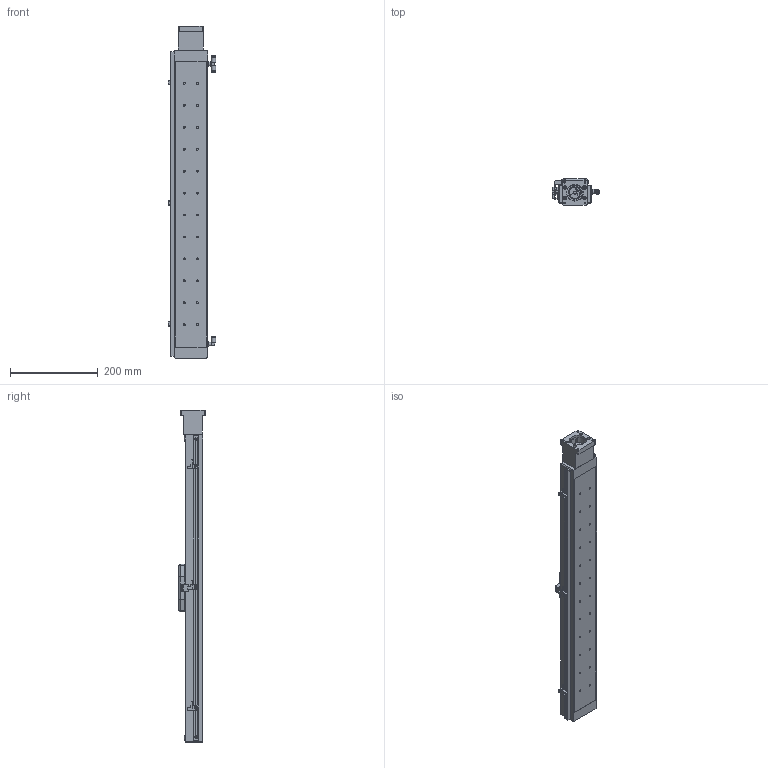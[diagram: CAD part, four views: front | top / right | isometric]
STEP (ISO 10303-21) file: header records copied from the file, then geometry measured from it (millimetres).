
FILE_DESCRIPTION((''),'2;1');
FILE_NAME('E:\catalogue and flyer\actuator catalogue 2015\dwg fr wg\UIA076CR9DC\UIA076CR9DC-stp file 05May16\UIA076CR9DC-550-R12_ _-M23-P13-C10-S.stp','2016-05-05T13:24:49',('h029'),(''),'Autodesk Inventor 11','Autodesk Inventor 11','');
FILE_SCHEMA(('AUTOMOTIVE_DESIGN { 1 0 10303 214 1 1 1 1 }'));
Length unit declared in the file: millimetre
Products named in the file (14): UIA076CR9DC-550; UIA076CR9DC-body; carriage-076CR; SOH25C; side 2; side 1; centre piece; 26-100 0071 sensor flag; GWL4-M5; GWT4-M5; 26-100 0110-M23; Sensor rail; Sensor Bracket ; Sensor
Assembly tree (17 placements, depth 3):
  UIA076CR9DC-550
    UIA076CR9DC-body
    carriage-076CR
    SOH25C
      side 2
      side 1
      centre piece
    26-100 0071 sensor flag
    GWL4-M5
    GWT4-M5
    26-100 0110-M23
    Sensor rail
    Sensor Bracket   x3
    Sensor  x3
Bounding box: 108.1 x 61 x 757 mm (x, y, z)
Volume: 2339459.1 mm3; surface area: 282655.1 mm2
Topology: 18 solids, 18 shells, 705 faces, 1806 edges, 1167 vertices
Faces by surface type: plane 355, bspline 172, cylinder 152, sphere 16, cone 10
Full cylindrical faces by diameter (mm): 2.459 x4, 2.5 x3, 8 x2, 25.5 x3, 30 x1, 37 x1, 38.1 x1
Entity records: 19949 total; most frequent: CARTESIAN_POINT 5839, DIRECTION 2797, ORIENTED_EDGE 2706, EDGE_CURVE 1353, AXIS2_PLACEMENT_3D 994, VERTEX_POINT 937, EDGE_LOOP 846, VECTOR 809
